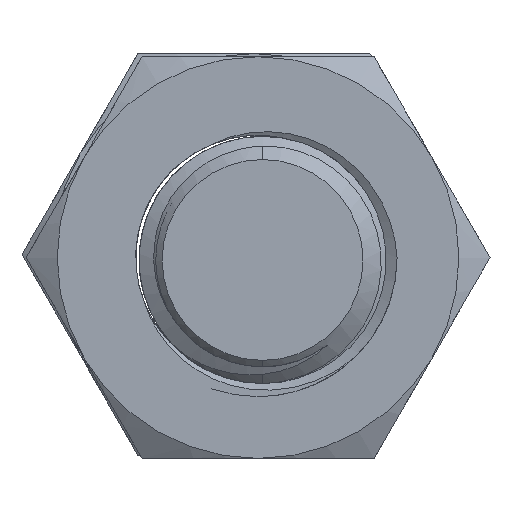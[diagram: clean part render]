
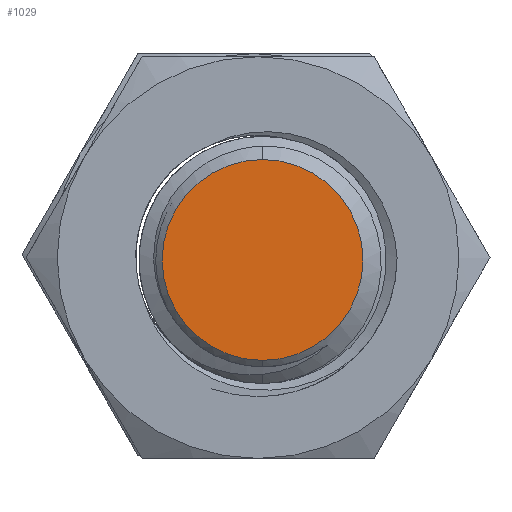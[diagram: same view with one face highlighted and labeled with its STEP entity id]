
A CAD part, front view. The second image highlights one B-rep face of the part: STEP entity #1029.
In plain terms, the highlighted planar face has unit normal (0, -1, 0).
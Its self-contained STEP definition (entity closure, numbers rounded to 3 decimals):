
#772 = CARTESIAN_POINT ( 'NONE',  ( 0., 2.5, 0. ) ) ;
#926 = ORIENTED_EDGE ( 'NONE', *, *, #6993, .T. ) ;
#1029 = ADVANCED_FACE ( 'NONE', ( #12159 ), #10608, .T. ) ;
#1177 = CARTESIAN_POINT ( 'NONE',  ( 0., 2.5, 0. ) ) ;
#1590 = CIRCLE ( 'NONE', #4401, 3.25 ) ;
#2417 = DIRECTION ( 'NONE',  ( 0., 0., -1. ) ) ;
#4401 = AXIS2_PLACEMENT_3D ( 'NONE', #1177, #17687, #4551 ) ;
#4551 = DIRECTION ( 'NONE',  ( 0., 0., -1. ) ) ;
#4958 = CIRCLE ( 'NONE', #11586, 3.25 ) ;
#5042 = CARTESIAN_POINT ( 'NONE',  ( 0., 2.5, 0. ) ) ;
#6719 = DIRECTION ( 'NONE',  ( 0., -1., 0. ) ) ;
#6993 = EDGE_CURVE ( 'NONE', #15260, #10664, #4958, .T. ) ;
#8381 = CARTESIAN_POINT ( 'NONE',  ( 0., 2.5, -3.25 ) ) ;
#9042 = DIRECTION ( 'NONE',  ( 0., -1., 0. ) ) ;
#10608 = PLANE ( 'NONE',  #17934 ) ;
#10664 = VERTEX_POINT ( 'NONE', #13631 ) ;
#11586 = AXIS2_PLACEMENT_3D ( 'NONE', #5042, #6719, #21192 ) ;
#12062 = EDGE_CURVE ( 'NONE', #10664, #15260, #1590, .T. ) ;
#12159 = FACE_OUTER_BOUND ( 'NONE', #20419, .T. ) ;
#13631 = CARTESIAN_POINT ( 'NONE',  ( 0., 2.5, 3.25 ) ) ;
#15260 = VERTEX_POINT ( 'NONE', #8381 ) ;
#17687 = DIRECTION ( 'NONE',  ( 0., -1., 0. ) ) ;
#17934 = AXIS2_PLACEMENT_3D ( 'NONE', #772, #9042, #2417 ) ;
#18939 = ORIENTED_EDGE ( 'NONE', *, *, #12062, .T. ) ;
#20419 = EDGE_LOOP ( 'NONE', ( #926, #18939 ) ) ;
#21192 = DIRECTION ( 'NONE',  ( 0., 0., -1. ) ) ;
